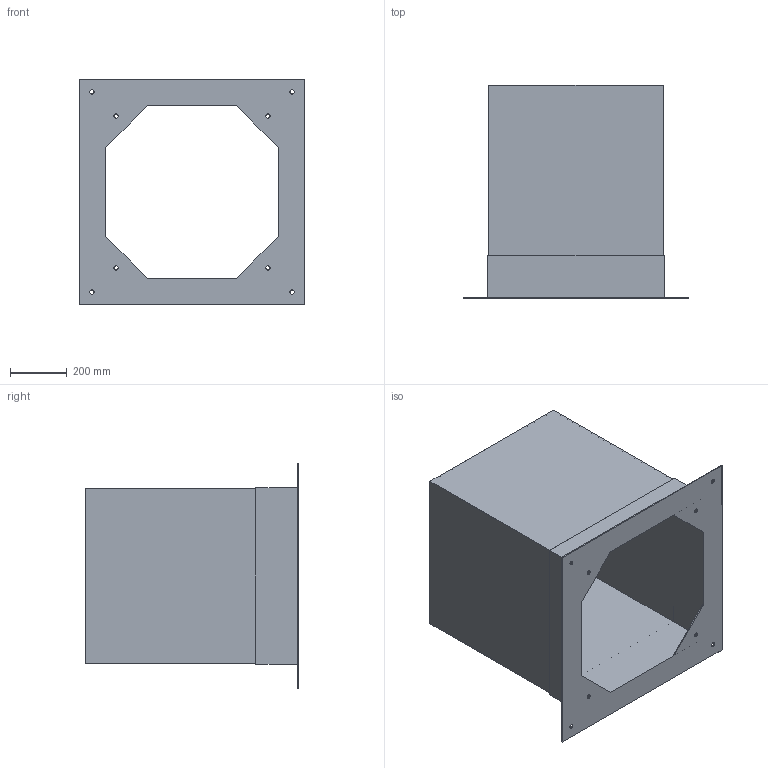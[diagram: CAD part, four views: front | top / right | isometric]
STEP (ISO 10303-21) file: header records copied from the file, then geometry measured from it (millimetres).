
FILE_DESCRIPTION(('STEP AP214'),'1');
FILE_NAME('accessory_5136864500.stp','2017-10-09T10:29:43',('TraceParts'),('TraceParts S.A.'),'Spatial InterOp 3D',' ',' ');
FILE_SCHEMA(('automotive_design'));
Length unit declared in the file: millimetre
Products named in the file (1): accessory_5136864500
Bounding box: 795 x 750 x 795 mm (x, y, z)
Volume: 10124590.7 mm3; surface area: 4365937.2 mm2
Topology: 1 solids, 1 shells, 60 faces, 168 edges, 112 vertices
Faces by surface type: plane 36, cylinder 24
Entity records: 2488 total; most frequent: CARTESIAN_POINT 341, DIRECTION 338, ORIENTED_EDGE 336, EDGE_CURVE 168, LINE 120, VECTOR 120, VERTEX_POINT 112, AXIS2_PLACEMENT_3D 109
